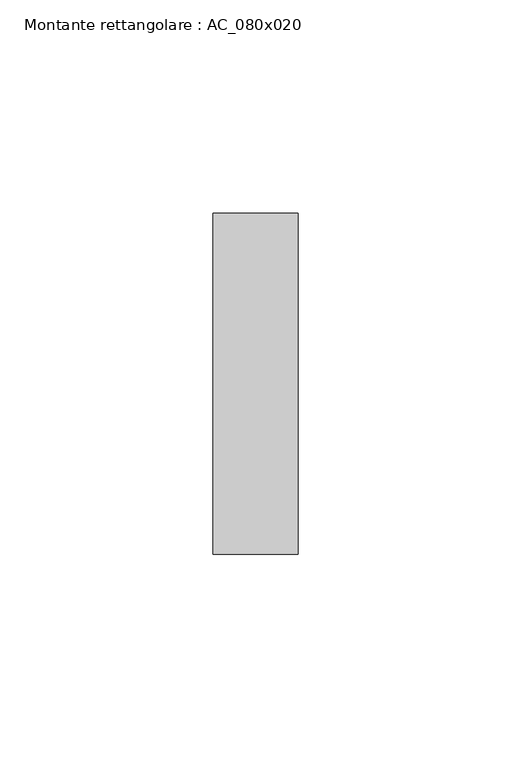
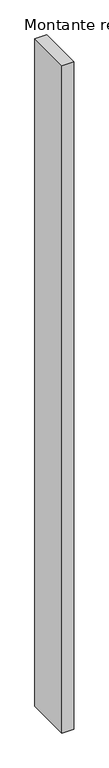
"""IFC4 building model written with IfcOpenShell, lengths in millimetres: member geometry, Montante rettangolare : AC_080x020."""

from ifc_helpers import new_model, si_unit, frame, origin, place, context, project, spatial, polyline, outline, extrude, source, transform, mapped, element, save


def montante_rettangolare_ac_080x020_546eea0c(model_context):
    return source(origin(), model_context, "Body", "SweptSolid", [
        extrude(outline(polyline([(0.0, 40.0), (0.0, -40.0), (-20.0, -40.0), (-20.0, 40.0), (0.0, 40.0)])), frame((0.0, 0.0, -1205.0), z_axis=(0.0, 0.0, 1.0), x_axis=(1.0, 0.0, 0.0)), (0.0, 0.0, 1.0), 1205.0),
    ])


if __name__ == "__main__":
    model = new_model("IFC4")
    model_context = context("Model", 3, world=origin())
    ifc_project = project(units=[si_unit("LENGTHUNIT", "METRE", prefix="MILLI")], contexts=[model_context])
    site = spatial("IfcSite", under=ifc_project)
    building = spatial("IfcBuilding", under=site)
    placement = place(None, origin())
    montante_rettangolare_ac_080x020_shape = montante_rettangolare_ac_080x020_546eea0c(model_context)
    element("IfcMember", 1, ObjectType="Montante rettangolare : AC_080x020", at=placement, inside=building, context=model_context, shape_type="MappedRepresentation", body=[
        mapped(montante_rettangolare_ac_080x020_shape, transform((0.0, 0.0, 0.0), x_axis=(1.0, 0.0, 0.0), y_axis=(0.0, 1.0, 0.0), z_axis=(0.0, 0.0, 1.0))),
    ])
    save(model, "model.ifc")
